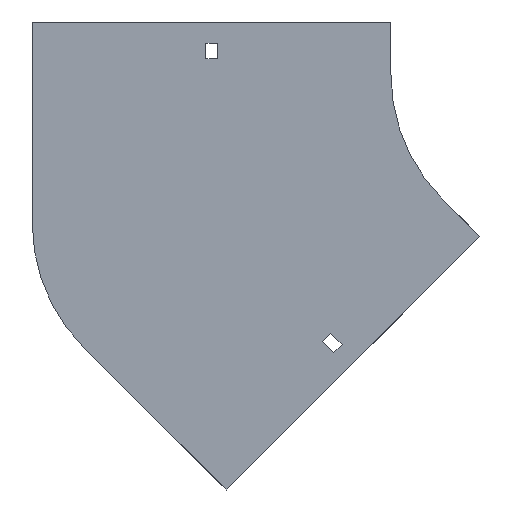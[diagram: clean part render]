
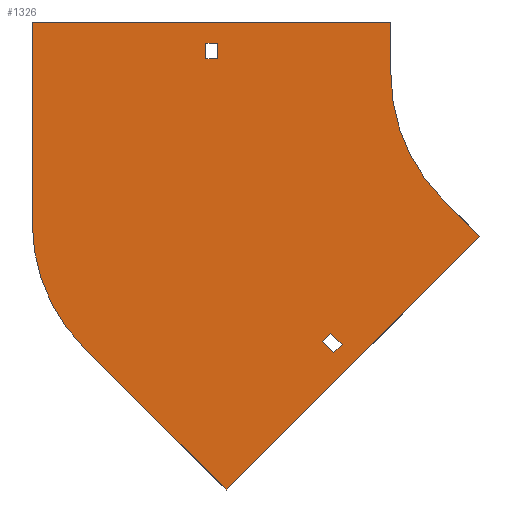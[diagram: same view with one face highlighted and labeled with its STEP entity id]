
A CAD part, front view. The second image highlights one B-rep face of the part: STEP entity #1326.
In plain terms, the highlighted planar face has unit normal (0, -1, 0).
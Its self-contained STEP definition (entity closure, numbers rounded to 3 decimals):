
#1 = EDGE_CURVE ( 'NONE', #934, #1402, #643, .T. ) ;
#39 = LINE ( 'NONE', #1241, #1157 ) ;
#45 = CARTESIAN_POINT ( 'NONE',  ( 0., 0., 0. ) ) ;
#66 = VERTEX_POINT ( 'NONE', #1173 ) ;
#87 = CARTESIAN_POINT ( 'NONE',  ( -205.25, 0., 9. ) ) ;
#92 = VECTOR ( 'NONE', #261, 1000. ) ;
#95 = CARTESIAN_POINT ( 'NONE',  ( -138.77, 0., -151.498 ) ) ;
#97 = EDGE_CURVE ( 'NONE', #66, #866, #586, .T. ) ;
#110 = DIRECTION ( 'NONE',  ( -0.707, 0., 0.707 ) ) ;
#114 = LINE ( 'NONE', #1619, #493 ) ;
#123 = ORIENTED_EDGE ( 'NONE', *, *, #339, .F. ) ;
#140 = LINE ( 'NONE', #587, #906 ) ;
#143 = ORIENTED_EDGE ( 'NONE', *, *, #1143, .T. ) ;
#197 = CARTESIAN_POINT ( 'NONE',  ( -134.174, 0., -146.901 ) ) ;
#227 = CARTESIAN_POINT ( 'NONE',  ( -274.711, 0., -155.21 ) ) ;
#261 = DIRECTION ( 'NONE',  ( -0.707, 0., -0.707 ) ) ;
#264 = CARTESIAN_POINT ( 'NONE',  ( -100., 0., 0. ) ) ;
#267 = VECTOR ( 'NONE', #629, 1000. ) ;
#268 = ORIENTED_EDGE ( 'NONE', *, *, #1447, .F. ) ;
#270 = CARTESIAN_POINT ( 'NONE',  ( -205.25, 0., 9. ) ) ;
#275 = DIRECTION ( 'NONE',  ( -1., 0., 0. ) ) ;
#307 = VERTEX_POINT ( 'NONE', #1884 ) ;
#329 = VECTOR ( 'NONE', #962, 1000. ) ;
#331 = VECTOR ( 'NONE', #1739, 1000. ) ;
#339 = EDGE_CURVE ( 'NONE', #1402, #1813, #575, .T. ) ;
#343 = LINE ( 'NONE', #197, #267 ) ;
#348 = CARTESIAN_POINT ( 'NONE',  ( -70.711, 0., -70.711 ) ) ;
#375 = CARTESIAN_POINT ( 'NONE',  ( -134.174, 0., -146.901 ) ) ;
#376 = CARTESIAN_POINT ( 'NONE',  ( -205.25, 0., 18. ) ) ;
#405 = CARTESIAN_POINT ( 'NONE',  ( -49.497, 0., -91.924 ) ) ;
#414 = DIRECTION ( 'NONE',  ( 0., 0., 1. ) ) ;
#455 = CARTESIAN_POINT ( 'NONE',  ( -100., 0., 30. ) ) ;
#475 = CARTESIAN_POINT ( 'NONE',  ( -138.77, 0., -151.498 ) ) ;
#483 = ORIENTED_EDGE ( 'NONE', *, *, #1040, .F. ) ;
#485 = VECTOR ( 'NONE', #1180, 1000. ) ;
#493 = VECTOR ( 'NONE', #275, 1000. ) ;
#520 = LINE ( 'NONE', #1836, #329 ) ;
#525 = AXIS2_PLACEMENT_3D ( 'NONE', #45, #699, #1416 ) ;
#541 = EDGE_CURVE ( 'NONE', #1278, #1208, #1635, .T. ) ;
#543 = ORIENTED_EDGE ( 'NONE', *, *, #716, .F. ) ;
#555 = CARTESIAN_POINT ( 'NONE',  ( -100., 0., 30. ) ) ;
#568 = EDGE_LOOP ( 'NONE', ( #268, #1831, #543, #1324 ) ) ;
#569 = VERTEX_POINT ( 'NONE', #982 ) ;
#571 = EDGE_CURVE ( 'NONE', #1904, #66, #520, .T. ) ;
#575 = LINE ( 'NONE', #405, #92 ) ;
#586 = LINE ( 'NONE', #1472, #1507 ) ;
#587 = CARTESIAN_POINT ( 'NONE',  ( -205.25, 0., 18. ) ) ;
#599 = VERTEX_POINT ( 'NONE', #375 ) ;
#602 = EDGE_CURVE ( 'NONE', #569, #307, #39, .T. ) ;
#604 = CARTESIAN_POINT ( 'NONE',  ( -127.81, 0., -153.265 ) ) ;
#629 = DIRECTION ( 'NONE',  ( -0.707, 0., 0.707 ) ) ;
#643 = LINE ( 'NONE', #348, #1107 ) ;
#645 = ORIENTED_EDGE ( 'NONE', *, *, #792, .F. ) ;
#664 = EDGE_LOOP ( 'NONE', ( #734, #852, #645, #1235, #123, #669, #1475, #483 ) ) ;
#669 = ORIENTED_EDGE ( 'NONE', *, *, #1, .F. ) ;
#676 = ORIENTED_EDGE ( 'NONE', *, *, #1891, .T. ) ;
#690 = CARTESIAN_POINT ( 'NONE',  ( -132.406, 0., -157.862 ) ) ;
#699 = DIRECTION ( 'NONE',  ( 0., -1., 0. ) ) ;
#700 = CARTESIAN_POINT ( 'NONE',  ( -204., 0., -84.5 ) ) ;
#716 = EDGE_CURVE ( 'NONE', #599, #1278, #999, .T. ) ;
#734 = ORIENTED_EDGE ( 'NONE', *, *, #97, .F. ) ;
#757 = DIRECTION ( 'NONE',  ( 0.707, 0., -0.707 ) ) ;
#760 = VERTEX_POINT ( 'NONE', #87 ) ;
#792 = EDGE_CURVE ( 'NONE', #1698, #1904, #1524, .T. ) ;
#793 = EDGE_CURVE ( 'NONE', #760, #1033, #1907, .T. ) ;
#807 = DIRECTION ( 'NONE',  ( 0., 0., -1. ) ) ;
#817 = EDGE_CURVE ( 'NONE', #1813, #1698, #868, .T. ) ;
#852 = ORIENTED_EDGE ( 'NONE', *, *, #571, .F. ) ;
#866 = VERTEX_POINT ( 'NONE', #455 ) ;
#868 = LINE ( 'NONE', #1459, #1002 ) ;
#906 = VECTOR ( 'NONE', #1196, 1000. ) ;
#908 = VECTOR ( 'NONE', #1292, 1000. ) ;
#934 = VERTEX_POINT ( 'NONE', #1663 ) ;
#956 = DIRECTION ( 'NONE',  ( 0.707, 0., -0.707 ) ) ;
#962 = DIRECTION ( 'NONE',  ( 0., 0., 1. ) ) ;
#970 = LINE ( 'NONE', #690, #908 ) ;
#977 = CARTESIAN_POINT ( 'NONE',  ( 0., 0., 0. ) ) ;
#982 = CARTESIAN_POINT ( 'NONE',  ( -198.75, 0., 18. ) ) ;
#999 = LINE ( 'NONE', #95, #485 ) ;
#1002 = VECTOR ( 'NONE', #110, 1000. ) ;
#1004 = AXIS2_PLACEMENT_3D ( 'NONE', #977, #1704, #807 ) ;
#1033 = VERTEX_POINT ( 'NONE', #376 ) ;
#1040 = EDGE_CURVE ( 'NONE', #866, #1845, #1439, .T. ) ;
#1059 = VECTOR ( 'NONE', #1274, 1000. ) ;
#1097 = PLANE ( 'NONE',  #525 ) ;
#1107 = VECTOR ( 'NONE', #956, 1000. ) ;
#1109 = CARTESIAN_POINT ( 'NONE',  ( -132.406, 0., -157.862 ) ) ;
#1111 = CARTESIAN_POINT ( 'NONE',  ( -193.747, 0., -236.174 ) ) ;
#1143 = EDGE_CURVE ( 'NONE', #1033, #569, #140, .T. ) ;
#1149 = DIRECTION ( 'NONE',  ( 0., 1., 0. ) ) ;
#1157 = VECTOR ( 'NONE', #1849, 1000. ) ;
#1171 = EDGE_LOOP ( 'NONE', ( #1511, #143, #1306, #676 ) ) ;
#1173 = CARTESIAN_POINT ( 'NONE',  ( -304., 0., 30. ) ) ;
#1180 = DIRECTION ( 'NONE',  ( -0.707, 0., -0.707 ) ) ;
#1181 = DIRECTION ( 'NONE',  ( 1., 0., 0. ) ) ;
#1183 = EDGE_CURVE ( 'NONE', #1550, #599, #343, .T. ) ;
#1196 = DIRECTION ( 'NONE',  ( 1., 0., 0. ) ) ;
#1208 = VERTEX_POINT ( 'NONE', #1109 ) ;
#1217 = VECTOR ( 'NONE', #757, 1000. ) ;
#1235 = ORIENTED_EDGE ( 'NONE', *, *, #817, .F. ) ;
#1240 = FACE_OUTER_BOUND ( 'NONE', #664, .T. ) ;
#1241 = CARTESIAN_POINT ( 'NONE',  ( -198.75, 0., 9. ) ) ;
#1274 = DIRECTION ( 'NONE',  ( 0., 0., -1. ) ) ;
#1278 = VERTEX_POINT ( 'NONE', #475 ) ;
#1292 = DIRECTION ( 'NONE',  ( 0.707, 0., 0.707 ) ) ;
#1306 = ORIENTED_EDGE ( 'NONE', *, *, #602, .T. ) ;
#1324 = ORIENTED_EDGE ( 'NONE', *, *, #1183, .F. ) ;
#1326 = ADVANCED_FACE ( 'NONE', ( #1387, #1240, #1835 ), #1097, .T. ) ;
#1359 = CARTESIAN_POINT ( 'NONE',  ( -138.77, 0., -151.498 ) ) ;
#1387 = FACE_BOUND ( 'NONE', #1171, .T. ) ;
#1402 = VERTEX_POINT ( 'NONE', #1747 ) ;
#1416 = DIRECTION ( 'NONE',  ( 0., 0., -1. ) ) ;
#1439 = LINE ( 'NONE', #555, #1059 ) ;
#1447 = EDGE_CURVE ( 'NONE', #1208, #1550, #970, .T. ) ;
#1459 = CARTESIAN_POINT ( 'NONE',  ( -193.747, 0., -236.174 ) ) ;
#1472 = CARTESIAN_POINT ( 'NONE',  ( -304., 0., 30. ) ) ;
#1475 = ORIENTED_EDGE ( 'NONE', *, *, #1605, .F. ) ;
#1495 = AXIS2_PLACEMENT_3D ( 'NONE', #700, #1149, #414 ) ;
#1498 = CIRCLE ( 'NONE', #1004, 100. ) ;
#1507 = VECTOR ( 'NONE', #1181, 1000. ) ;
#1511 = ORIENTED_EDGE ( 'NONE', *, *, #793, .T. ) ;
#1524 = CIRCLE ( 'NONE', #1495, 100. ) ;
#1550 = VERTEX_POINT ( 'NONE', #604 ) ;
#1605 = EDGE_CURVE ( 'NONE', #1845, #934, #1498, .T. ) ;
#1619 = CARTESIAN_POINT ( 'NONE',  ( -205.25, 0., 9. ) ) ;
#1635 = LINE ( 'NONE', #1359, #1217 ) ;
#1663 = CARTESIAN_POINT ( 'NONE',  ( -70.711, 0., -70.711 ) ) ;
#1698 = VERTEX_POINT ( 'NONE', #227 ) ;
#1704 = DIRECTION ( 'NONE',  ( 0., -1., 0. ) ) ;
#1739 = DIRECTION ( 'NONE',  ( 0., 0., 1. ) ) ;
#1747 = CARTESIAN_POINT ( 'NONE',  ( -49.497, 0., -91.924 ) ) ;
#1813 = VERTEX_POINT ( 'NONE', #1111 ) ;
#1831 = ORIENTED_EDGE ( 'NONE', *, *, #541, .F. ) ;
#1835 = FACE_BOUND ( 'NONE', #568, .T. ) ;
#1836 = CARTESIAN_POINT ( 'NONE',  ( -304., 0., -84.5 ) ) ;
#1845 = VERTEX_POINT ( 'NONE', #264 ) ;
#1849 = DIRECTION ( 'NONE',  ( 0., 0., -1. ) ) ;
#1884 = CARTESIAN_POINT ( 'NONE',  ( -198.75, 0., 9. ) ) ;
#1891 = EDGE_CURVE ( 'NONE', #307, #760, #114, .T. ) ;
#1904 = VERTEX_POINT ( 'NONE', #1943 ) ;
#1907 = LINE ( 'NONE', #270, #331 ) ;
#1943 = CARTESIAN_POINT ( 'NONE',  ( -304., 0., -84.5 ) ) ;
